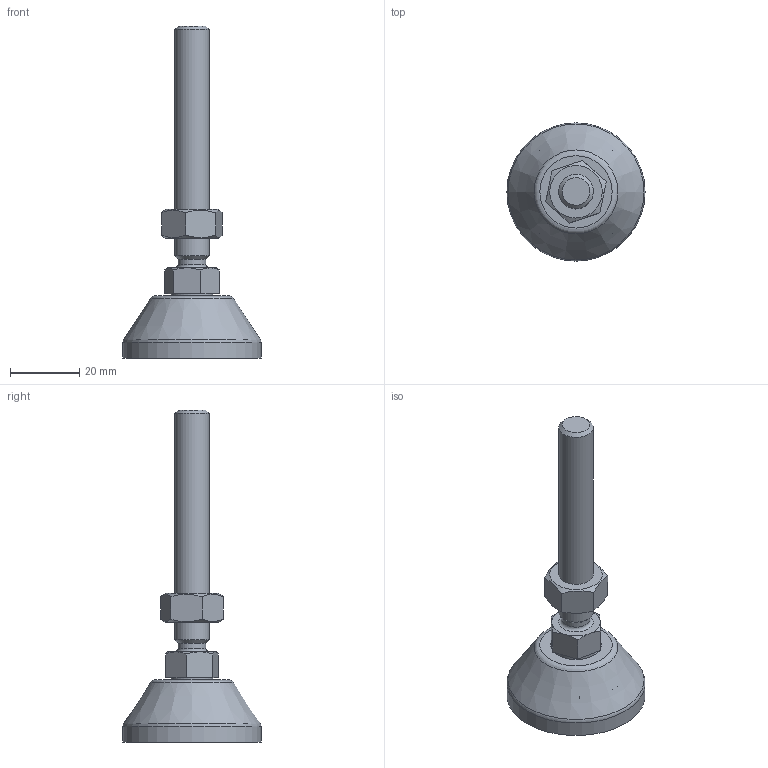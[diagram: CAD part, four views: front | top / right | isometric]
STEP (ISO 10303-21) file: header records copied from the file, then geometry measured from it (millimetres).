
FILE_DESCRIPTION(('STEP AP203'), '1');
FILE_NAME('栖闉罻', '', ('UNSPECIFIED'), ('UNSPECIFIED'), 'C3D Converter', 'C3D Toolkit', '');
FILE_SCHEMA(('CONFIG_CONTROL_DESIGN'));
Length unit declared in the file: millimetre
Products named in the file (4): A00015.1040; A00020.110070
Assembly tree (3 placements, depth 3):
  (unnamed)
    A00015.1040
    A00020.110070
      (unnamed)
Bounding box: 40 x 40 x 96.1 mm (x, y, z)
Volume: 19504.2 mm3; surface area: 10501.4 mm2
Topology: 3 solids, 3 shells, 142 faces, 392 edges, 260 vertices
Faces by surface type: plane 78, cylinder 26, torus 21, cone 15, sphere 2
Full cylindrical faces by diameter (mm): 8 x1, 8.376 x1, 10 x1, 12 x1, 14.3 x1, 15 x2, 15.5 x1, 32 x1, 40 x1
Entity records: 8111 total; most frequent: CARTESIAN_POINT 3258, ORIENTED_EDGE 730, DIRECTION 728, EDGE_CURVE 365, AXIS2_PLACEMENT_3D 291, VERTEX_POINT 259, EDGE_LOOP 174, FACE_BOUND 151
